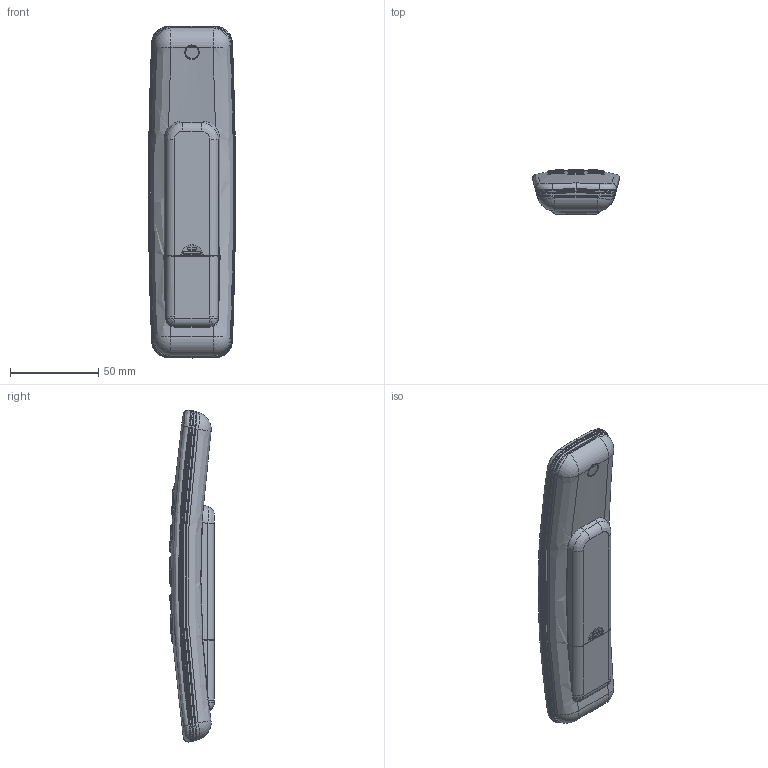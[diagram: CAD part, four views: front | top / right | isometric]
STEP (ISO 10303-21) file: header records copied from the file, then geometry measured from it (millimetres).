
FILE_DESCRIPTION((''),'2;1');
FILE_NAME('HC23RF1000','2013-09-24T',('mr'),(''),'PRO/ENGINEER BY PARAMETRIC TECHNOLOGY CORPORATION, 2013150','PRO/ENGINEER BY PARAMETRIC TECHNOLOGY CORPORATION, 2013150','');
FILE_SCHEMA(('CONFIG_CONTROL_DESIGN'));
Length unit declared in the file: millimetre
Products named in the file (1): HC23RF1000
Bounding box: 49.26 x 25.54 x 187.94 mm (x, y, z)
Volume: 152979.9 mm3; surface area: 25636.9 mm2
Topology: 1 solids, 1 shells, 1403 faces, 3479 edges, 2170 vertices
Faces by surface type: bspline 566, plane 361, cone 176, cylinder 162, torus 95, extrusion 36, sphere 7
Entity records: 84182 total; most frequent: CARTESIAN_POINT 46585, ORIENTED_EDGE 6958, DIRECTION 3498, EDGE_CURVE 3479, VERTEX_POINT 2170, B_SPLINE_CURVE_WITH_KNOTS 2165, EDGE_LOOP 1495, FILL_AREA_STYLE_COLOUR 1484
